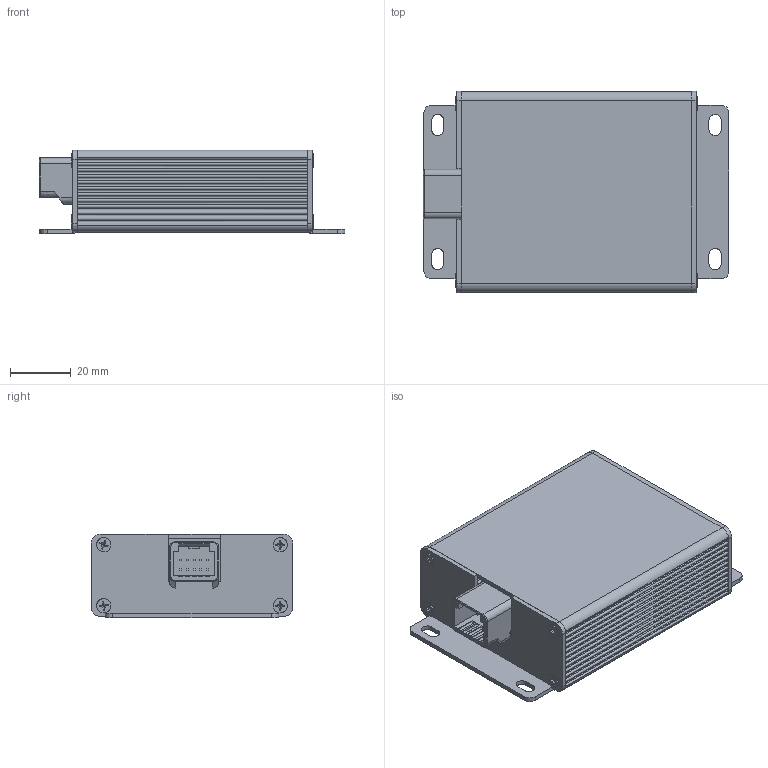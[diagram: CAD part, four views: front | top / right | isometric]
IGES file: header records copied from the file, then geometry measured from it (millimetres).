
Start section: START RECORD GO HERE.
Global section: file name: EC20_ACB.igs; native system: DASSAULT SYSTEMES CATIA Version 5-6 Release 2017 - www.3ds.com; preprocessor: V5-6R2017_5.27.0.0.10-19-2016.20.00; author: kani; organization: ARJ-D3; date: 20211124.222137; units: millimetre
Bounding box: 100.26 x 66 x 27.5 mm (x, y, z)
Volume: 32559.3 mm3; surface area: 47028.9 mm2
Topology: 11 solids, 12 shells, 801 faces, 2196 edges, 2012 vertices
Faces by surface type: plane 564, revolution 237
